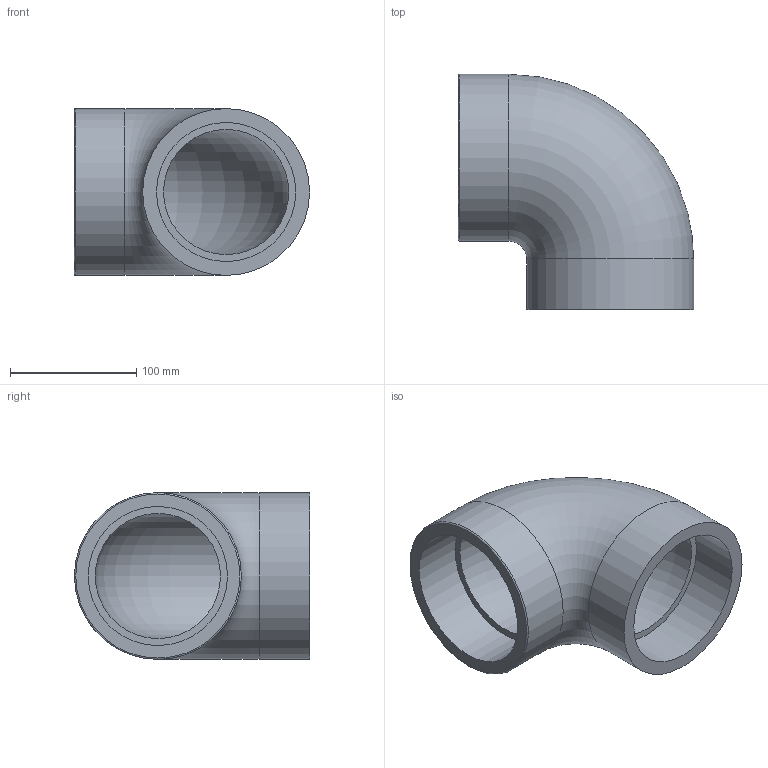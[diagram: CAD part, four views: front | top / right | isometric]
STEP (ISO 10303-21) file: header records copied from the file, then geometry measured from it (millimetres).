
FILE_DESCRIPTION(/* description */ ('PLASSON THREADED 90° ELBOW PVC 4"'),/* implementation_level */ '2;1');
FILE_NAME(/* name */ 'C:\Dropbox\KIMPROJECTS-Inventor\99-16-3568-Processing\PVC Catalog 2017\050501\050501040.ipt.stp',/* time_stamp */ '2017-12-07T15:56:11+02:00',/* author */ ('KIM'),/* organization */ (''),/* preprocessor_version */ 'ST-DEVELOPER v15.6',/* originating_system */ 'Autodesk Inventor 2015',/* authorisation */ '');
FILE_SCHEMA (('AUTOMOTIVE_DESIGN { 1 0 10303 214 3 1 1 }'));
Length unit declared in the file: millimetre
Products named in the file (1): 050501040
Bounding box: 186 x 186 x 132 mm (x, y, z)
Volume: 1084507 mm3; surface area: 163817.6 mm2
Topology: 1 solids, 1 shells, 11 faces, 21 edges, 14 vertices
Faces by surface type: cylinder 4, plane 4, torus 3
Full cylindrical faces by diameter (mm): 110.072 x2, 132 x2
Entity records: 252 total; most frequent: DIRECTION 46, CARTESIAN_POINT 34, AXIS2_PLACEMENT_3D 23, EDGE_LOOP 22, ORIENTED_EDGE 22, FACE_BOUND 11, FACE_OUTER_BOUND 11, CIRCLE 11
